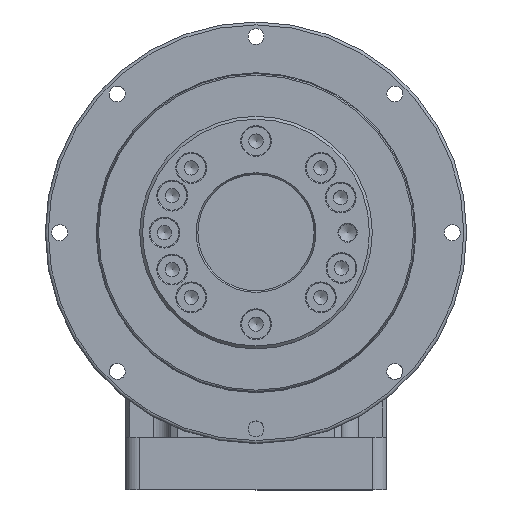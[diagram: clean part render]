
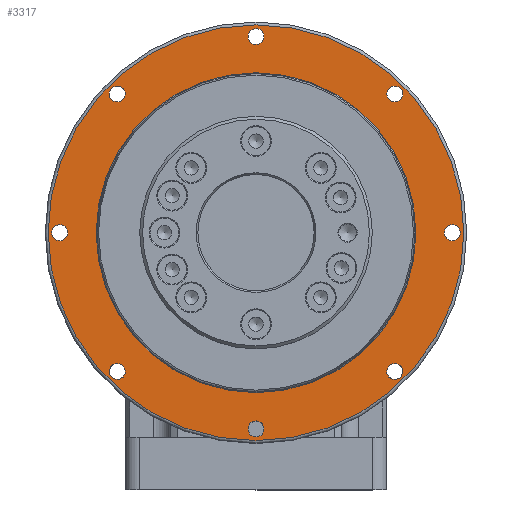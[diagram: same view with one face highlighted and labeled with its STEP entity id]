
A CAD part, top view. The second image highlights one B-rep face of the part: STEP entity #3317.
In plain terms, the highlighted planar face has unit normal (0, 0, 1).
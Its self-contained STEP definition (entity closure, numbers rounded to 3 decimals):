
#280=CARTESIAN_POINT('',(67.5,-2.75,8.0));
#281=VERTEX_POINT('',#280);
#282=CARTESIAN_POINT('',(67.5,0.,8.0));
#283=DIRECTION('',(0.0,0.0,-1.0));
#284=DIRECTION('',(0.0,1.0,0.0));
#285=AXIS2_PLACEMENT_3D('',#282,#283,#284);
#286=CIRCLE('',#285,2.75);
#287=EDGE_CURVE('',#281,#281,#286,.T.);
#308=CARTESIAN_POINT('',(2.75,67.5,8.0));
#309=VERTEX_POINT('',#308);
#310=CARTESIAN_POINT('',(0.0,67.5,8.0));
#311=DIRECTION('',(0.0,0.0,-1.0));
#312=DIRECTION('',(-1.0,0.0,0.0));
#313=AXIS2_PLACEMENT_3D('',#310,#311,#312);
#314=CIRCLE('',#313,2.75);
#315=EDGE_CURVE('',#309,#309,#314,.T.);
#336=CARTESIAN_POINT('',(-2.75,-67.5,8.0));
#337=VERTEX_POINT('',#336);
#338=CARTESIAN_POINT('',(0.,-67.5,8.0));
#339=DIRECTION('',(0.0,0.0,-1.0));
#340=DIRECTION('',(1.0,0.0,0.0));
#341=AXIS2_PLACEMENT_3D('',#338,#339,#340);
#342=CIRCLE('',#341,2.75);
#343=EDGE_CURVE('',#337,#337,#342,.T.);
#364=CARTESIAN_POINT('',(-45.785,49.674,8.0));
#365=VERTEX_POINT('',#364);
#366=CARTESIAN_POINT('',(-47.73,47.73,8.0));
#367=DIRECTION('',(0.0,0.0,-1.));
#368=DIRECTION('',(-0.707,-0.707,0.0));
#369=AXIS2_PLACEMENT_3D('',#366,#367,#368);
#370=CIRCLE('',#369,2.75);
#371=EDGE_CURVE('',#365,#365,#370,.T.);
#392=CARTESIAN_POINT('',(45.785,-49.674,8.0));
#393=VERTEX_POINT('',#392);
#394=CARTESIAN_POINT('',(47.73,-47.73,8.0));
#395=DIRECTION('',(0.0,0.0,-1.));
#396=DIRECTION('',(0.707,0.707,0.0));
#397=AXIS2_PLACEMENT_3D('',#394,#395,#396);
#398=CIRCLE('',#397,2.75);
#399=EDGE_CURVE('',#393,#393,#398,.T.);
#420=CARTESIAN_POINT('',(49.674,45.785,8.0));
#421=VERTEX_POINT('',#420);
#422=CARTESIAN_POINT('',(47.73,47.73,8.0));
#423=DIRECTION('',(0.0,0.0,-1.));
#424=DIRECTION('',(-0.707,0.707,0.0));
#425=AXIS2_PLACEMENT_3D('',#422,#423,#424);
#426=CIRCLE('',#425,2.75);
#427=EDGE_CURVE('',#421,#421,#426,.T.);
#516=CARTESIAN_POINT('',(-67.5,2.75,8.0));
#517=VERTEX_POINT('',#516);
#518=CARTESIAN_POINT('',(-67.5,0.0,8.0));
#519=DIRECTION('',(0.0,0.0,-1.0));
#520=DIRECTION('',(0.0,-1.0,0.0));
#521=AXIS2_PLACEMENT_3D('',#518,#519,#520);
#522=CIRCLE('',#521,2.75);
#523=EDGE_CURVE('',#517,#517,#522,.T.);
#3251=CARTESIAN_POINT('',(71.5,0.,8.0));
#3252=VERTEX_POINT('',#3251);
#3253=CARTESIAN_POINT('',(0.0,0.0,8.0));
#3254=DIRECTION('',(0.0,0.0,-1.0));
#3255=DIRECTION('',(-1.0,0.0,0.0));
#3256=AXIS2_PLACEMENT_3D('',#3253,#3254,#3255);
#3257=CIRCLE('',#3256,71.5);
#3258=EDGE_CURVE('',#3252,#3252,#3257,.T.);
#3266=CARTESIAN_POINT('',(0.0,0.0,8.0));
#3267=DIRECTION('',(0.0,0.0,-1.0));
#3268=DIRECTION('',(-1.0,0.0,0.0));
#3269=AXIS2_PLACEMENT_3D('',#3266,#3267,#3268);
#3270=PLANE('',#3269);
#3271=ORIENTED_EDGE('',*,*,#3258,.F.);
#3272=EDGE_LOOP('',(#3271));
#3273=FACE_OUTER_BOUND('',#3272,.T.);
#3274=CARTESIAN_POINT('',(55.0,0.,8.0));
#3275=VERTEX_POINT('',#3274);
#3276=CARTESIAN_POINT('',(0.0,0.0,8.0));
#3277=DIRECTION('',(0.0,0.0,-1.0));
#3278=DIRECTION('',(-1.0,0.0,0.0));
#3279=AXIS2_PLACEMENT_3D('',#3276,#3277,#3278);
#3280=CIRCLE('',#3279,55.0);
#3281=EDGE_CURVE('',#3275,#3275,#3280,.T.);
#3282=ORIENTED_EDGE('',*,*,#3281,.T.);
#3283=EDGE_LOOP('',(#3282));
#3284=FACE_BOUND('',#3283,.T.);
#3285=ORIENTED_EDGE('',*,*,#315,.T.);
#3286=EDGE_LOOP('',(#3285));
#3287=FACE_BOUND('',#3286,.T.);
#3288=ORIENTED_EDGE('',*,*,#371,.T.);
#3289=EDGE_LOOP('',(#3288));
#3290=FACE_BOUND('',#3289,.T.);
#3291=ORIENTED_EDGE('',*,*,#523,.T.);
#3292=EDGE_LOOP('',(#3291));
#3293=FACE_BOUND('',#3292,.T.);
#3294=CARTESIAN_POINT('',(-49.674,-45.785,8.0));
#3295=VERTEX_POINT('',#3294);
#3296=CARTESIAN_POINT('',(-47.73,-47.73,8.0));
#3297=DIRECTION('',(0.0,0.0,-1.));
#3298=DIRECTION('',(0.707,-0.707,0.0));
#3299=AXIS2_PLACEMENT_3D('',#3296,#3297,#3298);
#3300=CIRCLE('',#3299,2.75);
#3301=EDGE_CURVE('',#3295,#3295,#3300,.T.);
#3302=ORIENTED_EDGE('',*,*,#3301,.T.);
#3303=EDGE_LOOP('',(#3302));
#3304=FACE_BOUND('',#3303,.T.);
#3305=ORIENTED_EDGE('',*,*,#343,.T.);
#3306=EDGE_LOOP('',(#3305));
#3307=FACE_BOUND('',#3306,.T.);
#3308=ORIENTED_EDGE('',*,*,#399,.T.);
#3309=EDGE_LOOP('',(#3308));
#3310=FACE_BOUND('',#3309,.T.);
#3311=ORIENTED_EDGE('',*,*,#287,.T.);
#3312=EDGE_LOOP('',(#3311));
#3313=FACE_BOUND('',#3312,.T.);
#3314=ORIENTED_EDGE('',*,*,#427,.T.);
#3315=EDGE_LOOP('',(#3314));
#3316=FACE_BOUND('',#3315,.T.);
#3317=ADVANCED_FACE('',(#3273,#3284,#3287,#3290,#3293,#3304,#3307,#3310,#3313,#3316),#3270,.F.);
